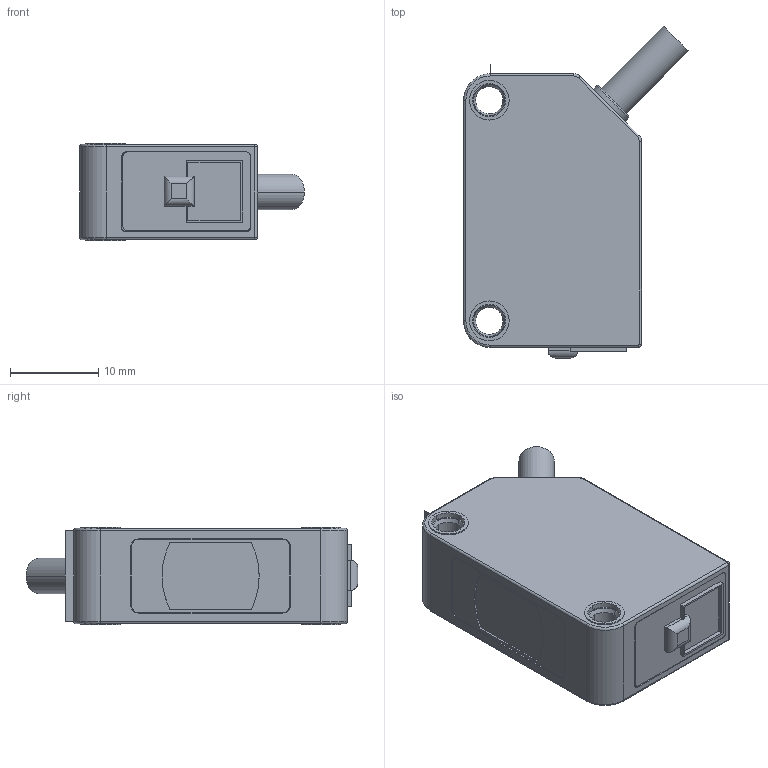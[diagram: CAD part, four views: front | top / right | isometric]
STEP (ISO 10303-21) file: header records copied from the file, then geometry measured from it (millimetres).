
FILE_DESCRIPTION((''),'2;1');
FILE_NAME('ASM-T61-FASHE_20180427_ASM','2018-07-21T08:58:31',('Administrator'),(''),'CREO PARAMETRIC BY PTC INC, 2016390','CREO PARAMETRIC BY PTC INC, 2016390','');
FILE_SCHEMA(('CONFIG_CONTROL_DESIGN'));
Length unit declared in the file: millimetre
Products named in the file (8): 2018-3-30-15002_2; 2018-3-30-16022_20_A; CH15003MOLD_1_7; T61_FASHE_PCB; T61_FASHE_LED; CH15003MOLD_10; DENGZHOU; ASM-T61-FASHE_20180427_ASM
Assembly tree (7 placements, depth 2):
  ASM-T61-FASHE_20180427_ASM
    2018-3-30-15002_2
    2018-3-30-16022_20_A
    CH15003MOLD_1_7
    T61_FASHE_PCB
    T61_FASHE_LED
    CH15003MOLD_10
    DENGZHOU
Bounding box: 25.46 x 37.62 x 11.1 mm (x, y, z)
Volume: 3595.4 mm3; surface area: 7234.9 mm2
Topology: 8 solids, 8 shells, 474 faces, 1303 edges, 865 vertices
Faces by surface type: plane 280, cylinder 109, cone 55, torus 14, bspline 6, extrusion 4, sphere 4, revolution 2
Entity records: 15754 total; most frequent: CARTESIAN_POINT 3268, ORIENTED_EDGE 2602, DIRECTION 2554, EDGE_CURVE 1301, VERTEX_POINT 865, VECTOR 862, LINE 858, AXIS2_PLACEMENT_3D 845
